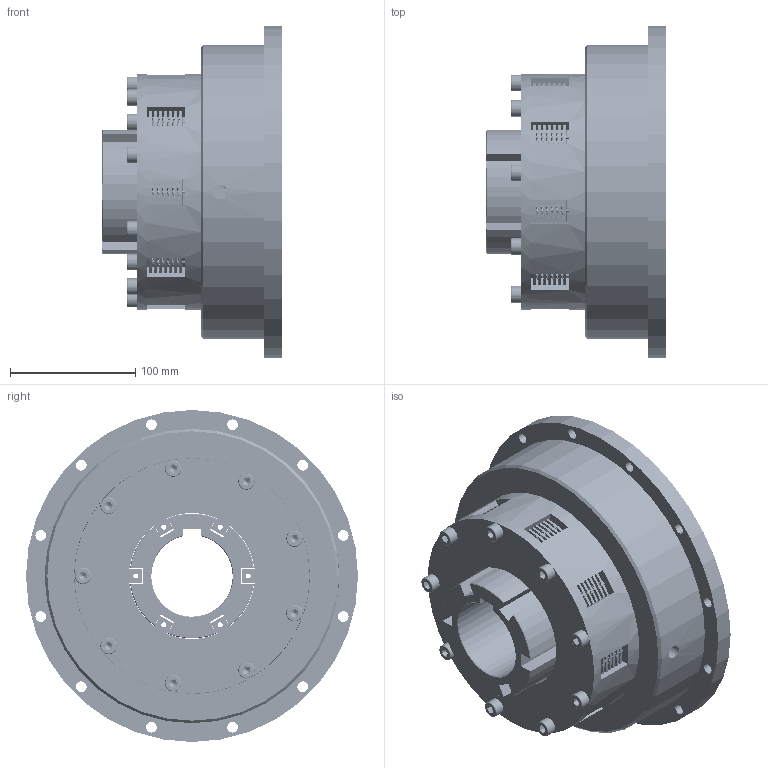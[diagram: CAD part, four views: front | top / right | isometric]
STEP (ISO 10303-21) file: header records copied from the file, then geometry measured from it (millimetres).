
FILE_DESCRIPTION(/* description */ (''),/* implementation_level */ '2;1');
FILE_NAME(/* name */ 'X:\INVENTOR\DISEGNI\03_Friz_Oleod_Pneum_Cil_Stat\03_40 FPL-N\03_40_008_01 FPL_N08\C\03_40_008_02 FPL-N008C@STEP.stp',/* time_stamp */ '2019-06-17T12:26:19+02:00',/* author */ ('stefano'),/* organization */ (''),/* preprocessor_version */ 'ST-DEVELOPER v17',/* originating_system */ 'Autodesk Inventor 2018',/* authorisation */ '');
FILE_SCHEMA (('AUTOMOTIVE_DESIGN { 1 0 10303 214 3 1 1 }'));
Products named in the file (1): 03_40_008_02 FPL-N008C_Substitute_1
Bounding box: 143 x 265 x 265 mm (x, y, z)
Volume: 3431173.7 mm3; surface area: 531243.9 mm2
Topology: 2 solids, 2 shells, 1501 faces, 4340 edges, 2916 vertices
Faces by surface type: plane 713, cylinder 395, bspline 288, cone 75, torus 30
Full cylindrical faces by diameter (mm): 2 x9, 2.75 x63, 4 x36, 6.647 x1, 8.5 x12, 11.445 x1, 13 x21, 13.5 x12, 15.5 x18, 102 x1, 102.5 x8, 110 x1, 125 x1, 150 x2, 160.25 x6, 164 x1, 188 x2, 205 x2, 235 x1, 265 x1
Entity records: 104600 total; most frequent: CARTESIAN_POINT 64182, ORIENTED_EDGE 8616, DIRECTION 7911, EDGE_CURVE 4308, AXIS2_PLACEMENT_3D 3078, VERTEX_POINT 2916, EDGE_LOOP 1888, CIRCLE 1846
